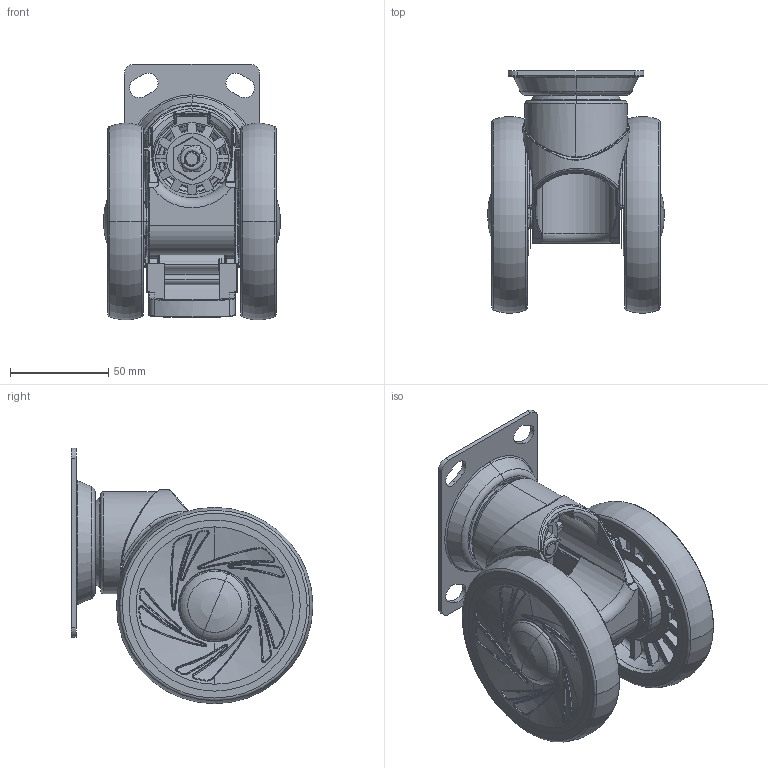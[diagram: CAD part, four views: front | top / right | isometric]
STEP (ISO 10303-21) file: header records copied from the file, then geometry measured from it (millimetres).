
FILE_DESCRIPTION((''),'2;1');
FILE_NAME('PRT0007','2026-04-16T18:32:09',('Administrator'),(''),'CREO PARAMETRIC BY PTC INC, 2022124','CREO PARAMETRIC BY PTC INC, 2022124','');
FILE_SCHEMA(('AUTOMOTIVE_DESIGN { 1 0 10303 214 1 1 1 1 }'));
Length unit declared in the file: millimetre
Products named in the file (1): PRT0007
Bounding box: 90 x 122.94 x 129.94 mm (x, y, z)
Surface area: 107229.7 mm2 (no closed solid volume)
Topology: 0 solids, 41 shells, 884 faces, 3623 edges, 2638 vertices
Faces by surface type: bspline 280, plane 246, torus 173, cylinder 142, cone 35, extrusion 4, sphere 4
Entity records: 65445 total; most frequent: CARTESIAN_POINT 32939, ORIENTED_EDGE 5387, DIRECTION 4701, EDGE_CURVE 3609, VERTEX_POINT 2634, AXIS2_PLACEMENT_3D 1882, B_SPLINE_CURVE_WITH_KNOTS 1411, CIRCLE 1272
